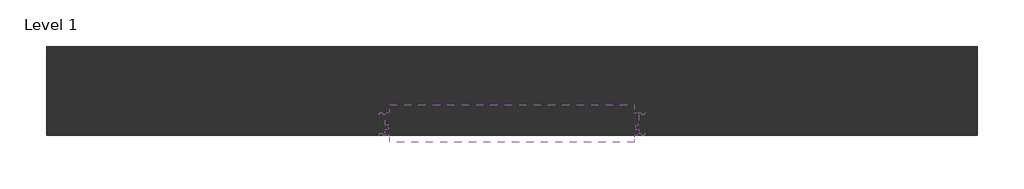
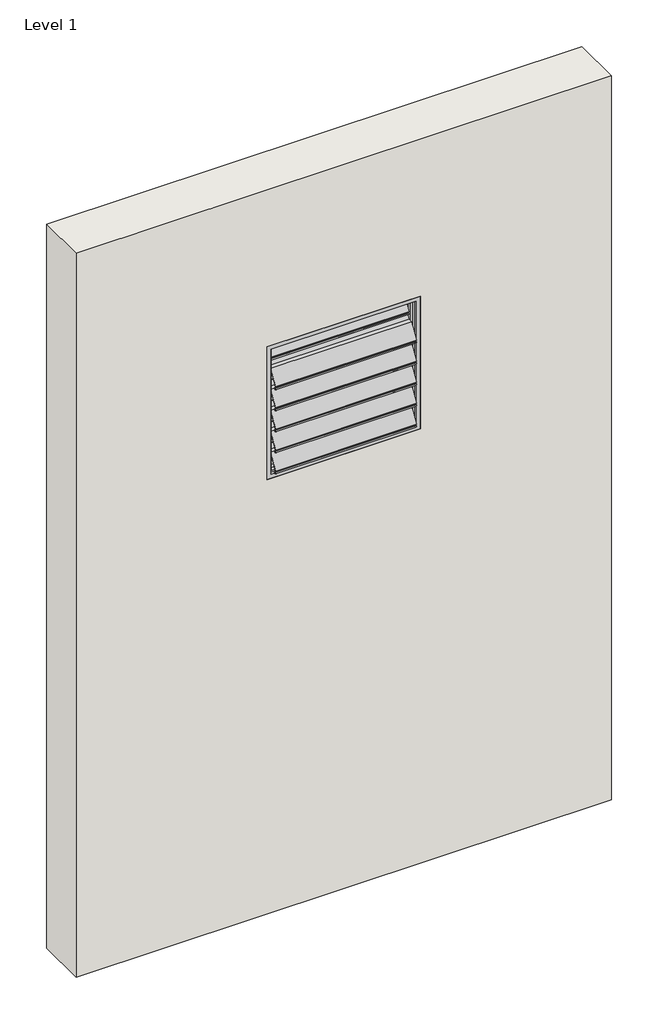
# One storey, incomplete: 1 air terminal, 1 wall.
"""IFC4 building model written with IfcOpenShell, lengths in millimetres."""

from ifc_helpers import new_model, si_unit, frame, origin, place, context, project, spatial, polyline, outline, extrude, transform, mapped, element, save
from components import bde_channel_63ecb905

model = new_model("IFC4")

# Units and contexts
model_context = context("Model", 3, world=origin())
ifc_project = project(units=[si_unit("LENGTHUNIT", "METRE", prefix="MILLI")], contexts=[model_context])

# Site, building, storey
site = spatial("IfcSite", under=ifc_project)
building = spatial("IfcBuilding", under=site)
storey = spatial("IfcBuildingStorey", under=building, Name="Level 1", Elevation=0.0)

# Air terminal
placement = place(None, origin())
bde_channel_shape = bde_channel_63ecb905(model_context)
element("IfcAirTerminal", 1, ObjectType="DC_Holyoake_BackDraftDamper_BDE_Channel_13 : BDE Channel", at=placement, inside=storey, context=model_context, shape_type="MappedRepresentation", body=[
    mapped(bde_channel_shape, transform((-3479.5618176, 4363.9401314, 1300.0), x_axis=(-1.0, 0.0, 0.0), y_axis=(0.0, -1.0, 0.0), z_axis=(0.0, 0.0, 1.0))),
])

# Wall
element("IfcWall", 2, ObjectType="Wall 1", at=placement, inside=storey, context=model_context, shape_type="SweptSolid", body=[
    extrude(outline(polyline([(0.0, -4654.5618176), (0.0, -2554.5618176), (3000.0, -2554.5618176), (3000.0, -4654.5618176), (0.0, -4654.5618176)]), holes=[polyline([(2350.0, -3304.5618176), (1800.0, -3304.5618176), (1800.0, -3904.5618176), (2350.0, -3904.5618176), (2350.0, -3304.5618176)])]), frame((0.0, 4263.9401314, 0.0), z_axis=(0.0, 1.0, 0.0), x_axis=(0.0, 0.0, 1.0)), (0.0, 0.0, 1.0), 200.0),
])

save(model, "model.ifc")
